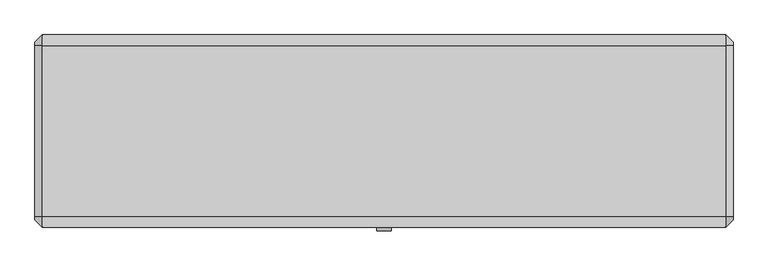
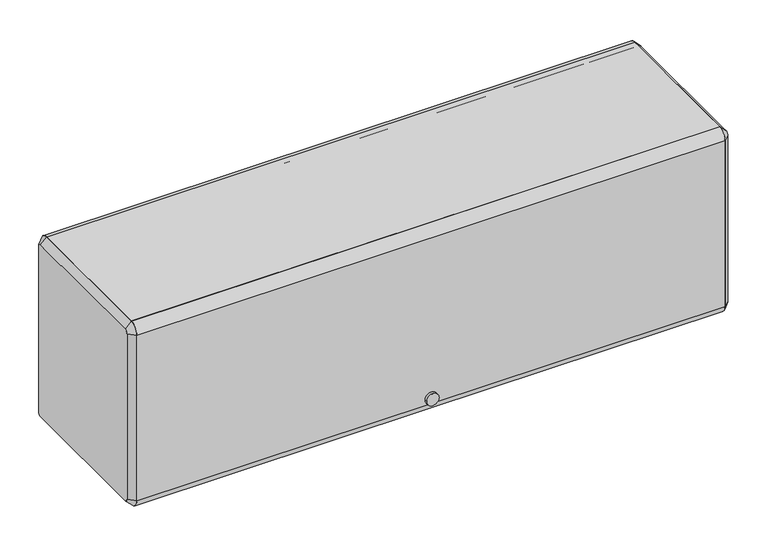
"""IFC4 building model written with IfcOpenShell, lengths in millimetres: furniture geometry."""

from ifc_helpers import new_model, si_unit, point, frame, frame_2d, origin, place, context, project, spatial, polyline, circle_curve, trimmed, segment, composite_curve, outline, extrude, source, transform, mapped, element, save
from ifc_brep_helpers import plane_surface, revolved_surface, advanced_brep


def furniture_96cbcaf7(model_context):
    return source(origin(), model_context, "Body", "SolidModel", [
        extrude(outline(composite_curve([segment(polyline([(-136.525, 1993.9), (-136.525, 2006.6), (161.925, 2006.6)]), True, "CONTINUOUS"), segment(trimmed(circle_curve(frame_2d((161.925, 1987.55)), 19.05), [point((161.925, 2006.6))], [point((180.975, 1987.55))], False, "CARTESIAN"), True, "CONTINUOUS"), segment(polyline([(180.975, 1987.55), (168.275, 1987.55)]), True, "CONTINUOUS"), segment(trimmed(circle_curve(frame_2d((161.925, 1987.55)), 6.35), [point((168.275, 1987.55))], [point((161.925, 1993.9))], True, "CARTESIAN"), True, "CONTINUOUS"), segment(polyline([(161.925, 1993.9), (-136.525, 1993.9)]), True, "CONTINUOUS")], self_intersect=False)), frame((-596.9, 0.0, 0.0), z_axis=(1.0, 0.0, 0.0), x_axis=(0.0, 1.0, 0.0)), (0.0, 0.0, 1.0), 1193.8),
        extrude(outline(composite_curve([segment(trimmed(circle_curve(frame_2d((-136.525, 1987.55)), 19.05), [point((-155.575, 1987.55))], [point((-136.525, 2006.6))], False, "CARTESIAN"), True, "CONTINUOUS"), segment(polyline([(-136.525, 2006.6), (-136.525, 1993.9)]), True, "CONTINUOUS"), segment(trimmed(circle_curve(frame_2d((-136.525, 1987.55)), 6.35), [point((-136.525, 1993.9))], [point((-142.875, 1987.55))], True, "CARTESIAN"), True, "CONTINUOUS"), segment(polyline([(-142.875, 1987.55), (-142.875, 1631.95)]), True, "CONTINUOUS"), segment(trimmed(circle_curve(frame_2d((-136.525, 1631.95)), 6.35), [point((-142.875, 1631.95))], [point((-136.525, 1625.6))], True, "CARTESIAN"), True, "CONTINUOUS"), segment(polyline([(-136.525, 1625.6), (-136.525, 1612.9)]), True, "CONTINUOUS"), segment(trimmed(circle_curve(frame_2d((-136.525, 1631.95)), 19.05), [point((-136.525, 1612.9))], [point((-155.575, 1631.95))], False, "CARTESIAN"), True, "CONTINUOUS"), segment(polyline([(-155.575, 1631.95), (-155.575, 1987.55)]), True, "CONTINUOUS")], self_intersect=False)), frame((-596.9, 0.0, 0.0), z_axis=(1.0, 0.0, 0.0), x_axis=(0.0, 1.0, 0.0)), (0.0, 0.0, 1.0), 1193.8),
        extrude(outline(composite_curve([segment(trimmed(circle_curve(frame_2d((1644.6118906, 0.0201199)), 12.7253951), [point((1644.6118906, 12.745515))], [point((1644.6118906, -12.7052752))], False, "CARTESIAN"), True, "CONTINUOUS"), segment(trimmed(circle_curve(frame_2d((1644.6118906, 0.0201199)), 12.7253951), [point((1644.6118906, -12.7052752))], [point((1644.6118906, 12.745515))], False, "CARTESIAN"), True, "CONTINUOUS")], self_intersect=False)), frame((0.0, -161.925, 0.0), z_axis=(0.0, 1.0, 0.0), x_axis=(0.0, 0.0, 1.0)), (0.0, 0.0, 1.0), 6.35),
        extrude(outline(polyline([(-136.525, 1651.0), (161.925, 1651.0), (161.925, 1689.1), (174.625, 1689.1), (174.625, 1685.925), (165.1, 1685.925), (165.1, 1647.825), (-133.35, 1647.825), (-133.35, 1628.775), (-136.525, 1628.775), (-136.525, 1651.0)])), frame((-596.9, 0.0, 0.0), z_axis=(1.0, 0.0, 0.0), x_axis=(0.0, 1.0, 0.0)), (0.0, 0.0, 1.0), 1193.8),
        advanced_brep(
        [(609.6, 161.925, 1993.9), (609.6, -136.525, 1993.9), (609.6, -142.875, 1987.55), (609.6, -142.875, 1631.95), (609.6, -136.525, 1625.6), (609.6, 161.925, 1625.6), (609.6, 168.275, 1631.95), (609.6, 168.275, 1987.55), (596.9, 161.925, 2006.6), (596.9, 180.975, 1987.55), (596.9, 180.975, 1631.95), (596.9, 161.925, 1612.9), (596.9, -136.525, 1612.9), (596.9, -155.575, 1631.95), (596.9, -155.575, 1987.55), (596.9, -136.525, 2006.6)],
        [
            (0, 1),
            (1, 2, circle_curve(frame((609.6, -136.525, 1987.55), z_axis=(1.0, 6.490807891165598e-12, -6.586731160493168e-12), x_axis=(6.586694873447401e-12, 0.0, 1.0)), 6.35)),
            (2, 3),
            (3, 4, circle_curve(frame((609.6, -136.525, 1631.95), z_axis=(1.0, 3.375966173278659e-12, 3.3892888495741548e-12), x_axis=(3.37601280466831e-12, -1.0, 0.0)), 6.35)),
            (4, 5),
            (5, 6, circle_curve(frame((609.6, 161.925, 1631.95), z_axis=(1.0, 3.378630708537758e-12, -3.3892888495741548e-12), x_axis=(-3.3893585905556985e-12, 0.0, -1.0)), 6.35)),
            (6, 7),
            (7, 0, circle_curve(frame((609.6, 161.925, 1987.55), z_axis=(1.0, 6.4828142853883e-12, 6.3948846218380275e-12), x_axis=(-6.482754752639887e-12, 1.0, 0.0)), 6.35)),
            (8, 9, circle_curve(frame((596.9, 161.925, 1987.55), z_axis=(-1.0, -6.4828142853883e-12, -6.3948846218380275e-12), x_axis=(-6.482754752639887e-12, 1.0, 0.0)), 19.05)),
            (9, 10),
            (10, 11, circle_curve(frame((596.9, 161.925, 1631.95), z_axis=(-1.0, -3.378630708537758e-12, 3.3892888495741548e-12), x_axis=(-3.3893585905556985e-12, 0.0, -1.0)), 19.05)),
            (11, 12),
            (12, 13, circle_curve(frame((596.9, -136.525, 1631.95), z_axis=(-1.0, -3.375966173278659e-12, -3.3892888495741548e-12), x_axis=(3.37601280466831e-12, -1.0, 0.0)), 19.05)),
            (13, 14),
            (14, 15, circle_curve(frame((596.9, -136.525, 1987.55), z_axis=(-1.0, -6.490807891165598e-12, 6.586731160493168e-12), x_axis=(6.586694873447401e-12, 0.0, 1.0)), 19.05)),
            (15, 8),
            (15, 1),
            (0, 8),
            (14, 2),
            (13, 3),
            (12, 4),
            (11, 5),
            (10, 6),
            (9, 7),
        ],
        [
            plane_surface(frame((609.6, 12.7, 1809.75), z_axis=(1.0, 0.0, 0.0), x_axis=(0.0, -1.0, 0.0))),
            plane_surface(frame((596.9, 12.7, 1809.75), z_axis=(-1.0, 0.0, 0.0), x_axis=(0.0, -1.0, 0.0))),
            plane_surface(frame((596.9, 12.7, 2006.6), z_axis=(0.7071067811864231, 0.0, 0.7071067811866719), x_axis=(0.0, -1.0, 0.0))),
            revolved_surface(polyline([(609.6000000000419, -136.525, 1993.899999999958), (596.9, -136.525, 2006.6)]), (615.95, -136.525, 1987.55), (-1.0, -6.490807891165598e-12, 6.586731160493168e-12)),
            plane_surface(frame((596.9, -155.575, 1809.75), z_axis=(0.7071067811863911, -0.7071067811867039, 0.0), x_axis=(0.0, 0.0, -1.0))),
            revolved_surface(polyline([(609.6000000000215, -142.87499999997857, 1631.95), (596.8999999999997, -155.57500000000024, 1631.95)]), (615.95, -136.525, 1631.95), (-1.0, -3.375966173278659e-12, -3.3892888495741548e-12)),
            plane_surface(frame((596.9, 12.7, 1612.9), z_axis=(0.7071067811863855, 0.0, -0.7071067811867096), x_axis=(0.0, 1.0, 0.0))),
            revolved_surface(polyline([(609.6, 161.925, 1625.6000000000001), (596.8999999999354, 161.925, 1612.8999999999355)]), (615.95, 161.925, 1631.95), (-1.0, -3.378630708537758e-12, 3.3892888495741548e-12)),
            plane_surface(frame((596.9, 180.975, 1809.75), z_axis=(0.7071067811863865, 0.7071067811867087, 0.0), x_axis=(0.0, 0.0, 1.0))),
            revolved_surface(polyline([(609.6, 168.275, 1987.55), (596.8999999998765, 180.9750000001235, 1987.55)]), (615.95, 161.925, 1987.55), (-1.0, -6.4828142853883e-12, -6.3948846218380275e-12)),
        ],
        [
            (0, [[1, 2, 3, 4, 5, 6, 7, 8]]),
            (1, [[9, 10, 11, 12, 13, 14, 15, 16]]),
            (2, [[-16, 17, -1, 18]]),
            (3, [[-15, 19, -2, -17]]),
            (4, [[-14, 20, -3, -19]]),
            (5, [[-13, 21, -4, -20]]),
            (6, [[-12, 22, -5, -21]]),
            (7, [[-11, 23, -6, -22]]),
            (8, [[-10, 24, -7, -23]]),
            (9, [[-9, -18, -8, -24]]),
        ],
    ),
        advanced_brep(
        [(-609.6, -136.525, 1993.9), (-609.6, 161.925, 1993.9), (-609.6, 168.275, 1987.55), (-609.6, 168.275, 1631.95), (-609.6, 161.925, 1625.6), (-609.6, -136.525, 1625.6), (-609.6, -142.875, 1631.95), (-609.6, -142.875, 1987.55), (-596.9, -136.525, 2006.6), (-596.9, -155.575, 1987.55), (-596.9, -155.575, 1631.95), (-596.9, -136.525, 1612.9), (-596.9, 161.925, 1612.9), (-596.9, 180.975, 1631.95), (-596.9, 180.975, 1987.55), (-596.9, 161.925, 2006.6)],
        [
            (0, 1),
            (1, 2, circle_curve(frame((-609.6, 161.925, 1987.55), z_axis=(-1.0, 3.365308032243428e-12, 3.453237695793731e-12), x_axis=(3.4532613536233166e-12, 0.0, 1.0)), 6.35)),
            (2, 3),
            (3, 4, circle_curve(frame((-609.6, 161.925, 1631.95), z_axis=(-1.0, 0.0, 0.0), x_axis=(0.0, 1.0, 0.0)), 6.35)),
            (4, 5),
            (5, 6, circle_curve(frame((-609.6, -136.525, 1631.95), z_axis=(-1.0, 0.0, 0.0), x_axis=(0.0, 0.0, -1.0)), 6.35)),
            (6, 7),
            (7, 0, circle_curve(frame((-609.6, -136.525, 1987.55), z_axis=(-1.0, 3.3799629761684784e-12, -3.3253400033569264e-12), x_axis=(-3.379938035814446e-12, -1.0, 0.0)), 6.35)),
            (8, 9, circle_curve(frame((-596.9, -136.525, 1987.55), z_axis=(1.0, -3.3799629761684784e-12, 3.3253400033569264e-12), x_axis=(-3.379938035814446e-12, -1.0, 0.0)), 19.05)),
            (9, 10),
            (10, 11, circle_curve(frame((-596.9, -136.525, 1631.95), z_axis=(1.0, 0.0, 0.0), x_axis=(0.0, 0.0, -1.0)), 19.05)),
            (11, 12),
            (12, 13, circle_curve(frame((-596.9, 161.925, 1631.95), z_axis=(1.0, 0.0, 0.0), x_axis=(0.0, 1.0, 0.0)), 19.05)),
            (13, 14),
            (14, 15, circle_curve(frame((-596.9, 161.925, 1987.55), z_axis=(1.0, -3.365308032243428e-12, -3.453237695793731e-12), x_axis=(3.4532613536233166e-12, 0.0, 1.0)), 19.05)),
            (15, 8),
            (15, 1),
            (0, 8),
            (14, 2),
            (13, 3),
            (12, 4),
            (11, 5),
            (10, 6),
            (9, 7),
        ],
        [
            plane_surface(frame((-609.6, 12.7, 1809.75), z_axis=(-1.0, 0.0, 0.0), x_axis=(0.0, -1.0, 0.0))),
            plane_surface(frame((-596.9, 12.7, 1809.75), z_axis=(1.0, 0.0, 0.0), x_axis=(0.0, -1.0, 0.0))),
            plane_surface(frame((-596.9, 12.7, 2006.6), z_axis=(-0.7071067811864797, 0.0, 0.7071067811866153), x_axis=(0.0, 1.0, 0.0))),
            revolved_surface(polyline([(-609.6, 161.925, 1993.8999999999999), (-596.8999999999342, 161.925, 2006.6000000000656)]), (-615.95, 161.925, 1987.55), (1.0, -3.365308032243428e-12, -3.453237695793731e-12)),
            plane_surface(frame((-596.9, 180.975, 1809.75), z_axis=(-0.7071067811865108, 0.7071067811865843, 0.0), x_axis=(0.0, 0.0, -1.0))),
            revolved_surface(polyline([(-609.6, 168.275, 1631.95), (-596.9, 180.975, 1631.95)]), (-615.95, 161.925, 1631.95), (1.0, 0.0, 0.0)),
            plane_surface(frame((-596.9, 12.7, 1612.9), z_axis=(-0.7071067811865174, 0.0, -0.7071067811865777), x_axis=(0.0, -1.0, 0.0))),
            revolved_surface(polyline([(-609.6, -136.525, 1625.6000000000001), (-596.9, -136.525, 1612.9)]), (-615.95, -136.525, 1631.95), (1.0, 0.0, 0.0)),
            plane_surface(frame((-596.9, -155.575, 1809.75), z_axis=(-0.7071067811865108, -0.7071067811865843, 0.0), x_axis=(0.0, 0.0, 1.0))),
            revolved_surface(polyline([(-609.6000000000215, -142.87499999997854, 1987.55), (-596.9, -155.575, 1987.55)]), (-615.95, -136.525, 1987.55), (1.0, -3.3799629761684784e-12, 3.3253400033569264e-12)),
        ],
        [
            (0, [[1, 2, 3, 4, 5, 6, 7, 8]]),
            (1, [[9, 10, 11, 12, 13, 14, 15, 16]]),
            (2, [[-16, 17, -1, 18]]),
            (3, [[-15, 19, -2, -17]]),
            (4, [[-14, 20, -3, -19]]),
            (5, [[-13, 21, -4, -20]]),
            (6, [[-12, 22, -5, -21]]),
            (7, [[-11, 23, -6, -22]]),
            (8, [[-10, 24, -7, -23]]),
            (9, [[-9, -18, -8, -24]]),
        ],
    ),
    ])


if __name__ == "__main__":
    model = new_model("IFC4")
    model_context = context("Model", 3, world=origin())
    ifc_project = project(units=[si_unit("LENGTHUNIT", "METRE", prefix="MILLI")], contexts=[model_context])
    site = spatial("IfcSite", under=ifc_project)
    building = spatial("IfcBuilding", under=site)
    placement = place(None, origin())
    furniture_shape = furniture_96cbcaf7(model_context)
    element("IfcFurniture", 1, ObjectType="HermanMiller_ActionOffice_A3352_B-StyleFlipperDoorUnit : 15 1/2\"H x 13\"D x 48\"W", at=placement, inside=building, context=model_context, shape_type="MappedRepresentation", body=[
        mapped(furniture_shape, transform((0.0, 0.0, 0.0), x_axis=(1.0, 0.0, 0.0), y_axis=(0.0, 1.0, 0.0), z_axis=(0.0, 0.0, 1.0))),
    ])
    save(model, "model.ifc")
